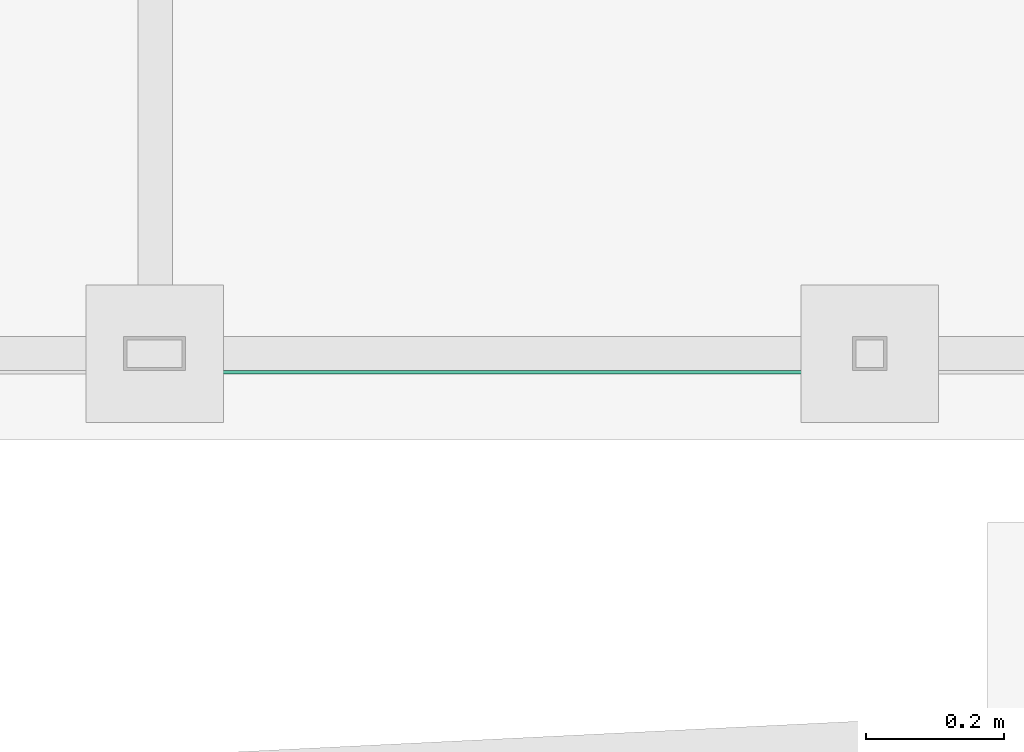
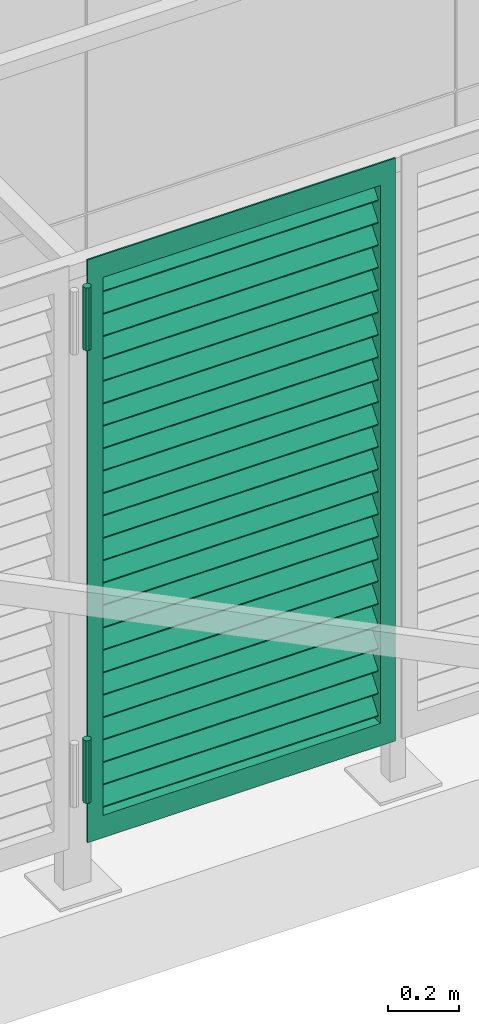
# One storey, part 178 of 418: 1 distribution flow element.
"""IFC2X3 building model written with IfcOpenShell, lengths in millimetres."""

from ifc_helpers import new_model, entity, si_unit, converted_unit, derived_unit, money_unit, direction, frame, origin_with_axes, place, context, subcontext, project, spatial, faceted_brep, source, transform, mapped, material, material_list, type_object, element, save


model = new_model("IFC2X3")

# Units and contexts
model_context = context("Model", 3, precision=0.01, world=origin_with_axes(), true_north=direction((0.0, 1.0)))
body_context = subcontext(model_context, "Body", "Model", "MODEL_VIEW")
ifc_project = project(units=[si_unit("LENGTHUNIT", "METRE", prefix="MILLI"), si_unit("AREAUNIT", "SQUARE_METRE"), si_unit("VOLUMEUNIT", "CUBIC_METRE"), converted_unit("PLANEANGLEUNIT", "DEGREE", entity("IfcPlaneAngleMeasure", 0.0174532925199), si_unit("PLANEANGLEUNIT", "RADIAN"), dimensions=[0, 0, 0, 0, 0, 0, 0]), si_unit("SOLIDANGLEUNIT", "STERADIAN"), money_unit("EUR"), converted_unit("TIMEUNIT", "Year", entity("IfcTimeMeasure", 31556926.0), si_unit("TIMEUNIT", "SECOND"), dimensions=[0, 0, 1, 0, 0, 0, 0]), si_unit("MASSUNIT", "GRAM", prefix="KILO"), si_unit("THERMODYNAMICTEMPERATUREUNIT", "DEGREE_CELSIUS"), si_unit("LUMINOUSINTENSITYUNIT", "LUMEN"), si_unit("ENERGYUNIT", "JOULE", prefix="MEGA"), derived_unit("THERMALCONDUCTANCEUNIT", [(si_unit("POWERUNIT", "WATT"), 1), (si_unit("LENGTHUNIT", "METRE"), -1), (si_unit("THERMODYNAMICTEMPERATUREUNIT", "KELVIN"), -1)]), derived_unit("SPECIFICHEATCAPACITYUNIT", [(si_unit("ENERGYUNIT", "JOULE"), 1), (si_unit("MASSUNIT", "GRAM", prefix="KILO"), -1), (si_unit("THERMODYNAMICTEMPERATUREUNIT", "KELVIN"), -1)]), derived_unit("MASSDENSITYUNIT", [(si_unit("MASSUNIT", "GRAM", prefix="KILO"), 1), (si_unit("VOLUMEUNIT", "CUBIC_METRE"), -1)])], contexts=[model_context])

# Site, building, storey
site_placement = place(None, origin_with_axes())
site = spatial("IfcSite", under=ifc_project, at=site_placement, Name="Paldiski mnt 245/1, Tallinn, Harjumaa", CompositionType="COMPLEX")
building_placement = place(site_placement, origin_with_axes())
building = spatial("IfcBuilding", under=site, at=building_placement, Name="RKAS Hoone üldnimetus (kasutust iseloomustav) -> IFC Project Manager -> SOLIBRI", CompositionType="ELEMENT")
storey_placement = place(building_placement, origin_with_axes())
storey = spatial("IfcBuildingStorey", under=building, at=storey_placement, Name="Esimene korrus", CompositionType="ELEMENT", Elevation=0.0)

# Distribution flow element
ifc_material_1 = material(Name="Teras")
ifc_material_2 = material(Name="ET-05_Teras")
ifc_material_list = material_list([ifc_material_1, ifc_material_2])
valve_type = type_object("IfcValveType", Name="Rest_1", PredefinedType="USERDEFINED")
shared_shape = source(origin_with_axes(), body_context, "Body", "Brep", [
    faceted_brep([(72.0, 25.0, 2000.0), (72.0, 25.0, 1923.07692308), (72.0, 25.0, 76.9230769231), (72.0, 25.0, 0.0), (72.0, 30.0, 0.0), (72.0, 30.0, 76.9230769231), (72.0, 30.0, 1923.07692308), (72.0, 30.0, 2000.0), (22.0, 25.0, 2000.0), (22.0, 25.0, 0.0), (22.0, 30.0, 0.0), (22.0, 30.0, 2000.0)], [[[0, 1, 2, 3, 4, 5, 6, 7]], [[3, 2, 1, 0, 8, 9]], [[10, 4, 3, 9]], [[7, 6, 5, 4, 10, 11]], [[8, 0, 7, 11]], [[8, 11, 10, 9]]]),
    faceted_brep([(972.0, 30.0, 0.0), (972.0, 25.0, 0.0), (72.0, 25.0, 0.0), (72.0, 30.0, 0.0), (972.0, 30.0, 76.9230769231), (972.0, 25.0, 76.9230769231), (72.0, 25.0, 76.9230769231), (72.0, 30.0, 76.9230769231)], [[[0, 1, 2, 3]], [[0, 4, 5, 1]], [[1, 5, 6, 2]], [[3, 2, 6, 7]], [[4, 0, 3, 7]], [[5, 4, 7, 6]]]),
    faceted_brep([(972.0, 30.0, 0.0), (972.0, 30.0, 76.9230769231), (972.0, 30.0, 1923.07692308), (972.0, 30.0, 2000.0), (1022.0, 30.0, 2000.0), (1022.0, 30.0, 0.0), (972.0, 25.0, 0.0), (972.0, 25.0, 76.9230769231), (972.0, 25.0, 1923.07692308), (972.0, 25.0, 2000.0), (1022.0, 25.0, 2000.0), (1022.0, 25.0, 0.0)], [[[0, 1, 2, 3, 4, 5]], [[6, 7, 8, 9, 3, 2, 1, 0]], [[4, 3, 9, 10]], [[10, 11, 5, 4]], [[11, 6, 0, 5]], [[9, 8, 7, 6, 11, 10]]]),
    faceted_brep([(977.0, 30.0, 76.9230769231), (972.0, 30.0, 76.9230769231), (972.0, 80.0, 76.9230769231), (977.0, 80.0, 76.9230769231), (977.0, 30.0, 1923.07692308), (972.0, 30.0, 1923.07692308), (972.0, 80.0, 1923.07692308), (977.0, 80.0, 1923.07692308)], [[[0, 1, 2, 3]], [[4, 5, 1, 0]], [[1, 5, 6, 2]], [[7, 3, 2, 6]], [[4, 0, 3, 7]], [[5, 4, 7, 6]]]),
    faceted_brep([(67.0, 30.0, 1923.07692308), (72.0, 30.0, 1923.07692308), (72.0, 80.0, 1923.07692308), (67.0, 80.0, 1923.07692308), (67.0, 30.0, 76.9230769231), (72.0, 30.0, 76.9230769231), (72.0, 80.0, 76.9230769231), (67.0, 80.0, 76.9230769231)], [[[0, 1, 2, 3]], [[4, 5, 1, 0]], [[1, 5, 6, 2]], [[7, 3, 2, 6]], [[4, 0, 3, 7]], [[5, 4, 7, 6]]]),
    faceted_brep([(972.0, 30.0, 1923.07692308), (972.0, 25.0, 1923.07692308), (72.0, 25.0, 1923.07692308), (72.0, 30.0, 1923.07692308), (972.0, 30.0, 2000.0), (972.0, 25.0, 2000.0), (72.0, 25.0, 2000.0), (72.0, 30.0, 2000.0)], [[[0, 1, 2, 3]], [[0, 4, 5, 1]], [[1, 5, 6, 2]], [[3, 2, 6, 7]], [[4, 0, 3, 7]], [[5, 4, 7, 6]]]),
    faceted_brep([(67.0, 30.0, 69.2307692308), (977.0, 30.0, 69.2307692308), (977.0, 30.0, 76.9230769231), (67.0, 30.0, 76.9230769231), (67.0, 80.0, 69.2307692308), (977.0, 80.0, 69.2307692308), (977.0, 80.0, 76.9230769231), (67.0, 80.0, 76.9230769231)], [[[0, 1, 2, 3]], [[0, 4, 5, 1]], [[1, 5, 6, 2]], [[3, 2, 6, 7]], [[4, 0, 3, 7]], [[5, 4, 7, 6]]]),
    faceted_brep([(67.0, 30.0, 1923.07692308), (977.0, 30.0, 1923.07692308), (977.0, 30.0, 1930.76923077), (67.0, 30.0, 1930.76923077), (67.0, 80.0, 1923.07692308), (977.0, 80.0, 1923.07692308), (977.0, 80.0, 1930.76923077), (67.0, 80.0, 1930.76923077)], [[[0, 1, 2, 3]], [[0, 4, 5, 1]], [[1, 5, 6, 2]], [[3, 2, 6, 7]], [[4, 0, 3, 7]], [[5, 4, 7, 6]]]),
    faceted_brep([(972.0, 77.3650491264, 141.906873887), (972.0, 39.0628269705, 92.4616731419), (72.0, 39.0628269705, 92.4616731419), (72.0, 77.3650491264, 141.906873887), (972.0, 74.151111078, 147.799523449), (972.0, 35.848888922, 98.3543227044), (72.0, 35.848888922, 98.3543227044), (72.0, 74.151111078, 147.799523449)], [[[0, 1, 2, 3]], [[0, 4, 5, 1]], [[1, 5, 6, 2]], [[3, 2, 6, 7]], [[4, 0, 3, 7]], [[5, 4, 7, 6]]]),
    faceted_brep([(972.0, 77.3650491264, 218.82995081), (972.0, 39.0628269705, 169.384750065), (72.0, 39.0628269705, 169.384750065), (72.0, 77.3650491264, 218.82995081), (972.0, 74.151111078, 224.722600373), (972.0, 35.848888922, 175.277399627), (72.0, 35.848888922, 175.277399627), (72.0, 74.151111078, 224.722600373)], [[[0, 1, 2, 3]], [[0, 4, 5, 1]], [[1, 5, 6, 2]], [[3, 2, 6, 7]], [[4, 0, 3, 7]], [[5, 4, 7, 6]]]),
    faceted_brep([(972.0, 77.3650491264, 295.753027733), (972.0, 39.0628269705, 246.307826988), (72.0, 39.0628269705, 246.307826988), (72.0, 77.3650491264, 295.753027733), (972.0, 74.151111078, 301.645677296), (972.0, 35.848888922, 252.200476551), (72.0, 35.848888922, 252.200476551), (72.0, 74.151111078, 301.645677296)], [[[0, 1, 2, 3]], [[0, 4, 5, 1]], [[1, 5, 6, 2]], [[3, 2, 6, 7]], [[4, 0, 3, 7]], [[5, 4, 7, 6]]]),
    faceted_brep([(972.0, 77.3650491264, 372.676104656), (972.0, 39.0628269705, 323.230903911), (72.0, 39.0628269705, 323.230903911), (72.0, 77.3650491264, 372.676104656), (972.0, 74.151111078, 378.568754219), (972.0, 35.848888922, 329.123553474), (72.0, 35.848888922, 329.123553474), (72.0, 74.151111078, 378.568754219)], [[[0, 1, 2, 3]], [[0, 4, 5, 1]], [[1, 5, 6, 2]], [[3, 2, 6, 7]], [[4, 0, 3, 7]], [[5, 4, 7, 6]]]),
    faceted_brep([(972.0, 77.3650491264, 449.599181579), (972.0, 39.0628269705, 400.153980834), (72.0, 39.0628269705, 400.153980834), (72.0, 77.3650491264, 449.599181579), (972.0, 74.151111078, 455.491831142), (972.0, 35.848888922, 406.046630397), (72.0, 35.848888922, 406.046630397), (72.0, 74.151111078, 455.491831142)], [[[0, 1, 2, 3]], [[0, 4, 5, 1]], [[1, 5, 6, 2]], [[3, 2, 6, 7]], [[4, 0, 3, 7]], [[5, 4, 7, 6]]]),
    faceted_brep([(972.0, 77.3650491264, 526.522258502), (972.0, 39.0628269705, 477.077057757), (72.0, 39.0628269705, 477.077057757), (72.0, 77.3650491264, 526.522258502), (972.0, 74.151111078, 532.414908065), (972.0, 35.848888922, 482.96970732), (72.0, 35.848888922, 482.96970732), (72.0, 74.151111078, 532.414908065)], [[[0, 1, 2, 3]], [[0, 4, 5, 1]], [[1, 5, 6, 2]], [[3, 2, 6, 7]], [[4, 0, 3, 7]], [[5, 4, 7, 6]]]),
    faceted_brep([(972.0, 77.3650491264, 603.445335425), (972.0, 39.0628269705, 554.00013468), (72.0, 39.0628269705, 554.00013468), (72.0, 77.3650491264, 603.445335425), (972.0, 74.151111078, 609.337984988), (972.0, 35.848888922, 559.892784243), (72.0, 35.848888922, 559.892784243), (72.0, 74.151111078, 609.337984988)], [[[0, 1, 2, 3]], [[0, 4, 5, 1]], [[1, 5, 6, 2]], [[3, 2, 6, 7]], [[4, 0, 3, 7]], [[5, 4, 7, 6]]]),
    faceted_brep([(972.0, 77.3650491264, 680.368412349), (972.0, 39.0628269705, 630.923211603), (72.0, 39.0628269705, 630.923211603), (72.0, 77.3650491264, 680.368412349), (972.0, 74.151111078, 686.261061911), (972.0, 35.848888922, 636.815861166), (72.0, 35.848888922, 636.815861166), (72.0, 74.151111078, 686.261061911)], [[[0, 1, 2, 3]], [[0, 4, 5, 1]], [[1, 5, 6, 2]], [[3, 2, 6, 7]], [[4, 0, 3, 7]], [[5, 4, 7, 6]]]),
    faceted_brep([(972.0, 77.3650491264, 757.291489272), (972.0, 39.0628269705, 707.846288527), (72.0, 39.0628269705, 707.846288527), (72.0, 77.3650491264, 757.291489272), (972.0, 74.151111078, 763.184138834), (972.0, 35.848888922, 713.738938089), (72.0, 35.848888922, 713.738938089), (72.0, 74.151111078, 763.184138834)], [[[0, 1, 2, 3]], [[0, 4, 5, 1]], [[1, 5, 6, 2]], [[3, 2, 6, 7]], [[4, 0, 3, 7]], [[5, 4, 7, 6]]]),
    faceted_brep([(972.0, 77.3650491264, 834.214566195), (972.0, 39.0628269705, 784.76936545), (72.0, 39.0628269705, 784.76936545), (72.0, 77.3650491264, 834.214566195), (972.0, 74.151111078, 840.107215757), (972.0, 35.848888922, 790.662015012), (72.0, 35.848888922, 790.662015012), (72.0, 74.151111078, 840.107215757)], [[[0, 1, 2, 3]], [[0, 4, 5, 1]], [[1, 5, 6, 2]], [[3, 2, 6, 7]], [[4, 0, 3, 7]], [[5, 4, 7, 6]]]),
    faceted_brep([(972.0, 77.3650491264, 911.137643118), (972.0, 39.0628269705, 861.692442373), (72.0, 39.0628269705, 861.692442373), (72.0, 77.3650491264, 911.137643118), (972.0, 74.151111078, 917.03029268), (972.0, 35.848888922, 867.585091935), (72.0, 35.848888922, 867.585091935), (72.0, 74.151111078, 917.03029268)], [[[0, 1, 2, 3]], [[0, 4, 5, 1]], [[1, 5, 6, 2]], [[3, 2, 6, 7]], [[4, 0, 3, 7]], [[5, 4, 7, 6]]]),
    faceted_brep([(972.0, 77.3650491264, 988.060720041), (972.0, 39.0628269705, 938.615519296), (72.0, 39.0628269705, 938.615519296), (72.0, 77.3650491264, 988.060720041), (972.0, 74.151111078, 993.953369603), (972.0, 35.848888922, 944.508168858), (72.0, 35.848888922, 944.508168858), (72.0, 74.151111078, 993.953369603)], [[[0, 1, 2, 3]], [[0, 4, 5, 1]], [[1, 5, 6, 2]], [[3, 2, 6, 7]], [[4, 0, 3, 7]], [[5, 4, 7, 6]]]),
    faceted_brep([(972.0, 77.3650491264, 1064.98379696), (972.0, 39.0628269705, 1015.53859622), (72.0, 39.0628269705, 1015.53859622), (72.0, 77.3650491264, 1064.98379696), (972.0, 74.151111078, 1070.87644653), (972.0, 35.848888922, 1021.43124578), (72.0, 35.848888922, 1021.43124578), (72.0, 74.151111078, 1070.87644653)], [[[0, 1, 2, 3]], [[0, 4, 5, 1]], [[1, 5, 6, 2]], [[3, 2, 6, 7]], [[4, 0, 3, 7]], [[5, 4, 7, 6]]]),
    faceted_brep([(972.0, 77.3650491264, 1141.90687389), (972.0, 39.0628269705, 1092.46167314), (72.0, 39.0628269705, 1092.46167314), (72.0, 77.3650491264, 1141.90687389), (972.0, 74.151111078, 1147.79952345), (972.0, 35.848888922, 1098.3543227), (72.0, 35.848888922, 1098.3543227), (72.0, 74.151111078, 1147.79952345)], [[[0, 1, 2, 3]], [[0, 4, 5, 1]], [[1, 5, 6, 2]], [[3, 2, 6, 7]], [[4, 0, 3, 7]], [[5, 4, 7, 6]]]),
    faceted_brep([(972.0, 77.3650491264, 1218.82995081), (972.0, 39.0628269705, 1169.38475006), (72.0, 39.0628269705, 1169.38475006), (72.0, 77.3650491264, 1218.82995081), (972.0, 74.151111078, 1224.72260037), (972.0, 35.848888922, 1175.27739963), (72.0, 35.848888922, 1175.27739963), (72.0, 74.151111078, 1224.72260037)], [[[0, 1, 2, 3]], [[0, 4, 5, 1]], [[1, 5, 6, 2]], [[3, 2, 6, 7]], [[4, 0, 3, 7]], [[5, 4, 7, 6]]]),
    faceted_brep([(972.0, 77.3650491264, 1295.75302773), (972.0, 39.0628269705, 1246.30782699), (72.0, 39.0628269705, 1246.30782699), (72.0, 77.3650491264, 1295.75302773), (972.0, 74.151111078, 1301.6456773), (972.0, 35.848888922, 1252.20047655), (72.0, 35.848888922, 1252.20047655), (72.0, 74.151111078, 1301.6456773)], [[[0, 1, 2, 3]], [[0, 4, 5, 1]], [[1, 5, 6, 2]], [[3, 2, 6, 7]], [[4, 0, 3, 7]], [[5, 4, 7, 6]]]),
    faceted_brep([(972.0, 77.3650491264, 1372.67610466), (972.0, 39.0628269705, 1323.23090391), (72.0, 39.0628269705, 1323.23090391), (72.0, 77.3650491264, 1372.67610466), (972.0, 74.151111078, 1378.56875422), (972.0, 35.848888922, 1329.12355347), (72.0, 35.848888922, 1329.12355347), (72.0, 74.151111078, 1378.56875422)], [[[0, 1, 2, 3]], [[0, 4, 5, 1]], [[1, 5, 6, 2]], [[3, 2, 6, 7]], [[4, 0, 3, 7]], [[5, 4, 7, 6]]]),
    faceted_brep([(972.0, 77.3650491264, 1449.59918158), (972.0, 39.0628269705, 1400.15398083), (72.0, 39.0628269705, 1400.15398083), (72.0, 77.3650491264, 1449.59918158), (972.0, 74.151111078, 1455.49183114), (972.0, 35.848888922, 1406.0466304), (72.0, 35.848888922, 1406.0466304), (72.0, 74.151111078, 1455.49183114)], [[[0, 1, 2, 3]], [[0, 4, 5, 1]], [[1, 5, 6, 2]], [[3, 2, 6, 7]], [[4, 0, 3, 7]], [[5, 4, 7, 6]]]),
    faceted_brep([(972.0, 77.3650491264, 1526.5222585), (972.0, 39.0628269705, 1477.07705776), (72.0, 39.0628269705, 1477.07705776), (72.0, 77.3650491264, 1526.5222585), (972.0, 74.151111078, 1532.41490806), (972.0, 35.848888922, 1482.96970732), (72.0, 35.848888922, 1482.96970732), (72.0, 74.151111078, 1532.41490806)], [[[0, 1, 2, 3]], [[0, 4, 5, 1]], [[1, 5, 6, 2]], [[3, 2, 6, 7]], [[4, 0, 3, 7]], [[5, 4, 7, 6]]]),
    faceted_brep([(972.0, 77.3650491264, 1603.44533543), (972.0, 39.0628269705, 1554.00013468), (72.0, 39.0628269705, 1554.00013468), (72.0, 77.3650491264, 1603.44533543), (972.0, 74.151111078, 1609.33798499), (972.0, 35.848888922, 1559.89278424), (72.0, 35.848888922, 1559.89278424), (72.0, 74.151111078, 1609.33798499)], [[[0, 1, 2, 3]], [[0, 4, 5, 1]], [[1, 5, 6, 2]], [[3, 2, 6, 7]], [[4, 0, 3, 7]], [[5, 4, 7, 6]]]),
    faceted_brep([(972.0, 77.3650491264, 1680.36841235), (972.0, 39.0628269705, 1630.9232116), (72.0, 39.0628269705, 1630.9232116), (72.0, 77.3650491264, 1680.36841235), (972.0, 74.151111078, 1686.26106191), (972.0, 35.848888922, 1636.81586117), (72.0, 35.848888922, 1636.81586117), (72.0, 74.151111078, 1686.26106191)], [[[0, 1, 2, 3]], [[0, 4, 5, 1]], [[1, 5, 6, 2]], [[3, 2, 6, 7]], [[4, 0, 3, 7]], [[5, 4, 7, 6]]]),
    faceted_brep([(972.0, 77.3650491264, 1757.29148927), (972.0, 39.0628269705, 1707.84628853), (72.0, 39.0628269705, 1707.84628853), (72.0, 77.3650491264, 1757.29148927), (972.0, 74.151111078, 1763.18413883), (972.0, 35.848888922, 1713.73893809), (72.0, 35.848888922, 1713.73893809), (72.0, 74.151111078, 1763.18413883)], [[[0, 1, 2, 3]], [[0, 4, 5, 1]], [[1, 5, 6, 2]], [[3, 2, 6, 7]], [[4, 0, 3, 7]], [[5, 4, 7, 6]]]),
    faceted_brep([(972.0, 77.3650491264, 1834.21456619), (972.0, 39.0628269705, 1784.76936545), (72.0, 39.0628269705, 1784.76936545), (72.0, 77.3650491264, 1834.21456619), (972.0, 74.151111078, 1840.10721576), (972.0, 35.848888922, 1790.66201501), (72.0, 35.848888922, 1790.66201501), (72.0, 74.151111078, 1840.10721576)], [[[0, 1, 2, 3]], [[0, 4, 5, 1]], [[1, 5, 6, 2]], [[3, 2, 6, 7]], [[4, 0, 3, 7]], [[5, 4, 7, 6]]]),
    faceted_brep([(972.0, 77.3650491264, 1911.13764312), (972.0, 39.0628269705, 1861.69244237), (72.0, 39.0628269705, 1861.69244237), (72.0, 77.3650491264, 1911.13764312), (972.0, 74.151111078, 1917.03029268), (972.0, 35.848888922, 1867.58509194), (72.0, 35.848888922, 1867.58509194), (72.0, 74.151111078, 1917.03029268)], [[[0, 1, 2, 3]], [[0, 4, 5, 1]], [[1, 5, 6, 2]], [[3, 2, 6, 7]], [[4, 0, 3, 7]], [[5, 4, 7, 6]]]),
    faceted_brep([(0.0, 12.5, 153.846153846), (3.66116523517, 3.66116523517, 153.846153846), (3.66116523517, 3.66116523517, 369.230769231), (0.0, 12.5, 369.230769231), (3.66116523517, 21.3388347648, 153.846153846), (12.5, 25.0, 153.846153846), (21.3388347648, 21.3388347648, 153.846153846), (25.0, 12.5, 153.846153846), (21.3388347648, 3.66116523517, 153.846153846), (12.5, 0.0, 153.846153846), (12.5, 0.0, 369.230769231), (21.3388347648, 3.66116523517, 369.230769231), (25.0, 12.5, 369.230769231), (21.3388347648, 21.3388347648, 369.230769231), (12.5, 25.0, 369.230769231), (3.66116523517, 21.3388347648, 369.230769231)], [[[0, 1, 2, 3]], [[0, 4, 5, 6, 7, 8, 9, 1]], [[1, 9, 10, 2]], [[3, 2, 10, 11, 12, 13, 14, 15]], [[4, 0, 3, 15]], [[5, 4, 15, 14]], [[6, 5, 14, 13]], [[7, 6, 13, 12]], [[8, 7, 12, 11]], [[9, 8, 11, 10]]]),
    faceted_brep([(0.0, 12.5, 1707.69230769), (3.66116523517, 3.66116523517, 1707.69230769), (3.66116523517, 3.66116523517, 1923.07692308), (0.0, 12.5, 1923.07692308), (3.66116523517, 21.3388347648, 1707.69230769), (12.5, 25.0, 1707.69230769), (21.3388347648, 21.3388347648, 1707.69230769), (25.0, 12.5, 1707.69230769), (21.3388347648, 3.66116523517, 1707.69230769), (12.5, 0.0, 1707.69230769), (12.5, 0.0, 1923.07692308), (21.3388347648, 3.66116523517, 1923.07692308), (25.0, 12.5, 1923.07692308), (21.3388347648, 21.3388347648, 1923.07692308), (12.5, 25.0, 1923.07692308), (3.66116523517, 21.3388347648, 1923.07692308)], [[[0, 1, 2, 3]], [[0, 4, 5, 6, 7, 8, 9, 1]], [[1, 9, 10, 2]], [[3, 2, 10, 11, 12, 13, 14, 15]], [[4, 0, 3, 15]], [[5, 4, 15, 14]], [[6, 5, 14, 13]], [[7, 6, 13, 12]], [[8, 7, 12, 11]], [[9, 8, 11, 10]]]),
])
distribution_flow_element_placement = place(storey_placement, frame((-51641.4373183, -1585.71022117, 0.0), z_axis=(0.0, 0.0, 1.0), x_axis=(1.0, 0.0, 0.0)))
element("IfcDistributionFlowElement", 1, at=distribution_flow_element_placement, inside=storey, type_object=valve_type, material=ifc_material_list, Name="Trapp", ObjectType="Distribution Flow Element", context=body_context, shape_type="MappedRepresentation", body=[
    mapped(shared_shape, transform((0.0, 0.0, 0.0))),
])

save(model, "model.ifc")
